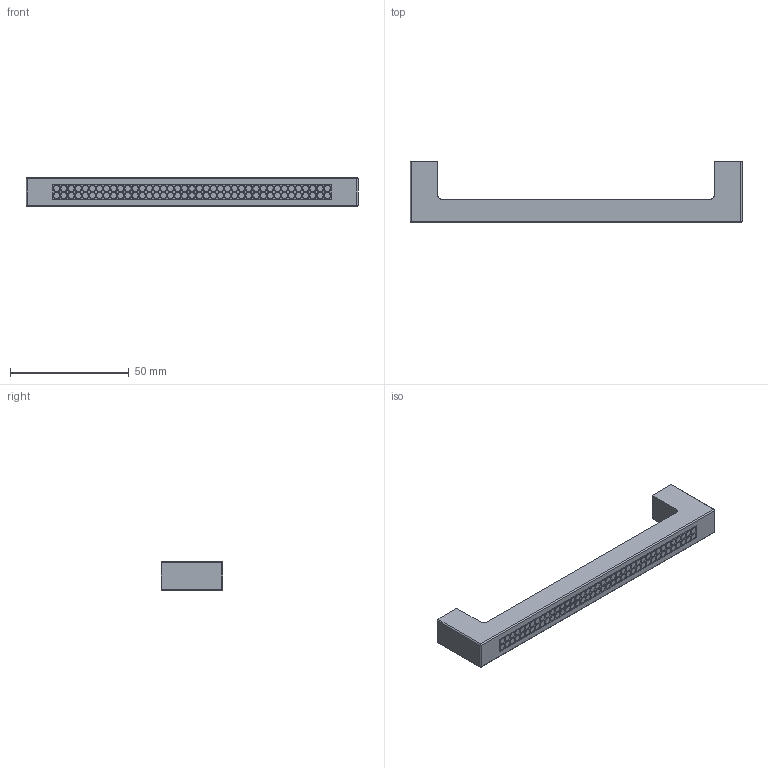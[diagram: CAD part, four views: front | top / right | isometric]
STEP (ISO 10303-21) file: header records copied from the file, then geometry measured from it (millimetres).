
FILE_DESCRIPTION( ( '' ), '1' );
FILE_NAME( 'D:/1.AUTOCAD EXPORT/Group 10/sheet_10_1/9113711.stp', '2013-10-21T12:02:45', ( '' ), ( '' ), ' ', ' ', ' ' );
FILE_SCHEMA( ( 'automotive_design' ) );
Length unit declared in the file: millimetre
Products named in the file (1): 1
Bounding box: 140 x 26 x 12 mm (x, y, z)
Volume: 21000.3 mm3; surface area: 8356.8 mm2
Topology: 1 solids, 1 shells, 1162 faces, 3198 edges, 2080 vertices
Faces by surface type: plane 524, torus 312, cone 312, cylinder 14
Entity records: 74480 total; most frequent: CARTESIAN_POINT 9249, DIRECTION 6488, STYLED_ITEM 6441, PRESENTATION_STYLE_ASSIGNMENT 6441, COLOUR_RGB 6441, ORIENTED_EDGE 6396, EDGE_CURVE 3198, CURVE_STYLE 3198
